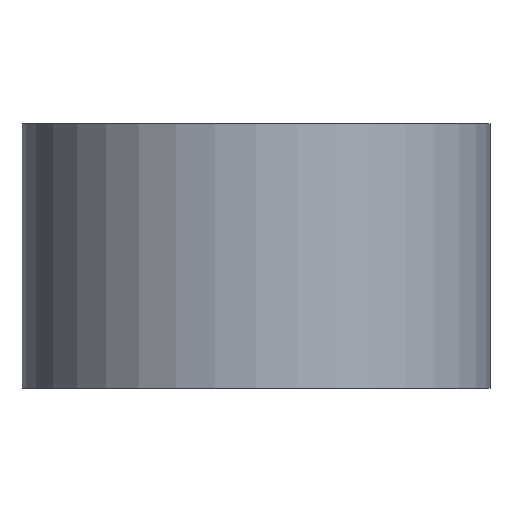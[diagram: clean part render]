
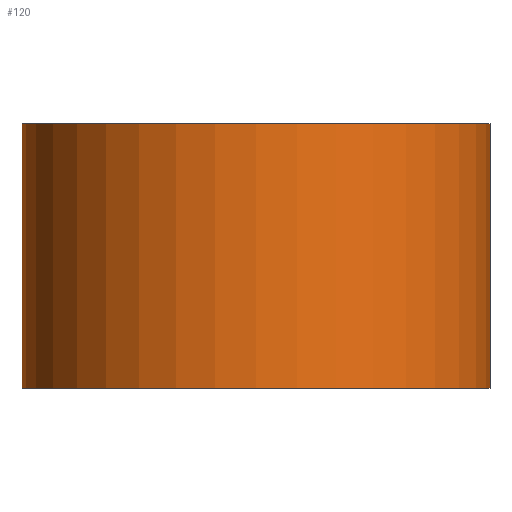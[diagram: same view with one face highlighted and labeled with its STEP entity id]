
A CAD part, front view. The second image highlights one B-rep face of the part: STEP entity #120.
In plain terms, the highlighted cylindrical face has radius 116 mm (diameter 232 mm), a partial arc.
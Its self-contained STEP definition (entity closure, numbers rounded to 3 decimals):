
#64=CARTESIAN_POINT('Axis2P3D Location',(0.,0.,65.5)) ;
#69=CARTESIAN_POINT('Line Origine',(116.,0.,65.5)) ;
#73=CARTESIAN_POINT('Vertex',(116.,0.,0.)) ;
#75=CARTESIAN_POINT('Vertex',(116.,0.,131.)) ;
#82=CARTESIAN_POINT('Vertex',(-116.,0.,0.)) ;
#85=CARTESIAN_POINT('Line Origine',(-116.,0.,65.5)) ;
#89=CARTESIAN_POINT('Vertex',(-116.,0.,131.)) ;
#104=CARTESIAN_POINT('Axis2P3D Location',(0.,0.,0.)) ;
#109=CARTESIAN_POINT('Axis2P3D Location',(0.,0.,131.)) ;
#65=DIRECTION('Axis2P3D Direction',(0.,0.,1.)) ;
#66=DIRECTION('Axis2P3D XDirection',(1.,0.,0.)) ;
#70=DIRECTION('Vector Direction',(0.,0.,1.)) ;
#86=DIRECTION('Vector Direction',(0.,0.,1.)) ;
#105=DIRECTION('Axis2P3D Direction',(0.,0.,1.)) ;
#110=DIRECTION('Axis2P3D Direction',(0.,0.,1.)) ;
#67=AXIS2_PLACEMENT_3D('Cylinder Axis2P3D',#64,#65,#66) ;
#106=AXIS2_PLACEMENT_3D('Circle Axis2P3D',#104,#105,$) ;
#111=AXIS2_PLACEMENT_3D('Circle Axis2P3D',#109,#110,$) ;
#115=ORIENTED_EDGE('',*,*,#91,.F.) ;
#116=ORIENTED_EDGE('',*,*,#108,.T.) ;
#117=ORIENTED_EDGE('',*,*,#77,.T.) ;
#118=ORIENTED_EDGE('',*,*,#113,.F.) ;
#71=VECTOR('Line Direction',#70,1.) ;
#87=VECTOR('Line Direction',#86,1.) ;
#120=ADVANCED_FACE('PartBody',(#119),#68,.T.) ;
#107=CIRCLE('generated circle',#106,116.) ;
#112=CIRCLE('generated circle',#111,116.) ;
#68=CYLINDRICAL_SURFACE('generated cylinder',#67,116.) ;
#77=EDGE_CURVE('',#74,#76,#72,.T.) ;
#91=EDGE_CURVE('',#83,#90,#88,.T.) ;
#108=EDGE_CURVE('',#83,#74,#107,.T.) ;
#113=EDGE_CURVE('',#90,#76,#112,.T.) ;
#114=EDGE_LOOP('',(#115,#116,#117,#118)) ;
#119=FACE_OUTER_BOUND('',#114,.T.) ;
#72=LINE('Line',#69,#71) ;
#88=LINE('Line',#85,#87) ;
#74=VERTEX_POINT('',#73) ;
#76=VERTEX_POINT('',#75) ;
#83=VERTEX_POINT('',#82) ;
#90=VERTEX_POINT('',#89) ;
